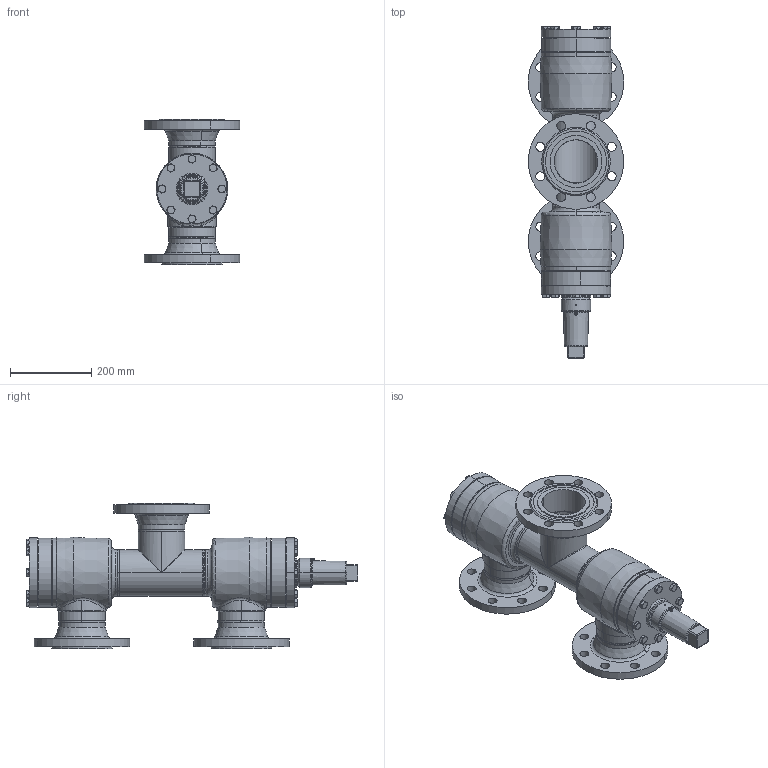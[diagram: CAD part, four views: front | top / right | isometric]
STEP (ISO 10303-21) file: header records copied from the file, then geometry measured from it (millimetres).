
FILE_DESCRIPTION (( 'STEP AP214' ), '1' );
FILE_NAME ('WVR24020D19-DN100_DIN-FL-N-F_PS40.STEP', '2010-09-08T09:02:26', ( 'Eckhard Grams' ), ( 'AWP Kälte Klima Armaturen GmbH' ), 'SwSTEP 2.0', 'SolidWorks 2002296', '' );
FILE_SCHEMA (( 'AUTOMOTIVE_DESIGN' ));
Length unit declared in the file: millimetre
Products named in the file (21): WVR24020D19-DN100_DIN-FL-N-F_PS40; Kappe 16402-19_DN80-100 (M60x3)_Standard; Geh,kpl23020E19-DN100_DIN-FL-N-F_PS40_Standard; Flansch-DIN2635-Feder_PS40_DIN-Flansch-DN100_PS40-Feder; Geh,kpl23000E19-DN100_R1_PS40_Standard; T-Stück DIN2615_DN100; Gehäuse23000E19-DN100_R1_PS40_Standard; bead23000-19-2kopf_Standard; bead23000-19-2_Standard; bead23000-19-1kopf_Standard; bead23000-19-1_Standard; Kopfstück16300-DN100_Standard; Flansch-DIN2635-Nut_PS40_DIN-Flansch-DN100_PS40-Nut; bead23020-19-2_Standard; bead23020-19-3_Standard; bead23020-19-1_Standard; AVR26300E19_Deck+Schr-DN100_Standard; Deckel26300E19-DN100_Standard; WVB-R23000E19_Deck+Schr-DN100_Standard; Deckel23000E19-DN100_Standard; Sechskantschraube-DIN933_M12x 35
Assembly tree (38 placements, depth 4):
  WVR24020D19-DN100_DIN-FL-N-F_PS40
    Geh,kpl23020E19-DN100_DIN-FL-N-F_PS40_Standard
      Geh,kpl23000E19-DN100_R1_PS40_Standard
        bead23000-19-2_Standard
        Kopfstück16300-DN100_Standard  x2
        Gehäuse23000E19-DN100_R1_PS40_Standard  x2
        bead23000-19-2kopf_Standard
        bead23000-19-1kopf_Standard
        T-Stück DIN2615_DN100
        bead23000-19-1_Standard
      bead23020-19-3_Standard
      Flansch-DIN2635-Nut_PS40_DIN-Flansch-DN100_PS40-Nut
      bead23020-19-2_Standard
      Flansch-DIN2635-Feder_PS40_DIN-Flansch-DN100_PS40-Feder  x2
      bead23020-19-1_Standard
    WVB-R23000E19_Deck+Schr-DN100_Standard
      Sechskantschraube-DIN933_M12x 35  x8
      Deckel23000E19-DN100_Standard
    AVR26300E19_Deck+Schr-DN100_Standard
      Sechskantschraube-DIN933_M12x 35  x8
      Deckel26300E19-DN100_Standard
    Kappe 16402-19_DN80-100 (M60x3)_Standard
Bounding box: 234.78 x 816.5 x 357 mm (x, y, z)
Volume: 7651297 mm3; surface area: 1370027.9 mm2
Topology: 34 solids, 34 shells, 863 faces, 1929 edges, 1156 vertices
Faces by surface type: cone 305, cylinder 256, plane 218, bspline 52, torus 32
Entity records: 40234 total; most frequent: CARTESIAN_POINT 29932, DIRECTION 1976, ORIENTED_EDGE 1854, EDGE_CURVE 927, AXIS2_PLACEMENT_3D 853, VERTEX_POINT 571, EDGE_LOOP 500, CIRCLE 458
